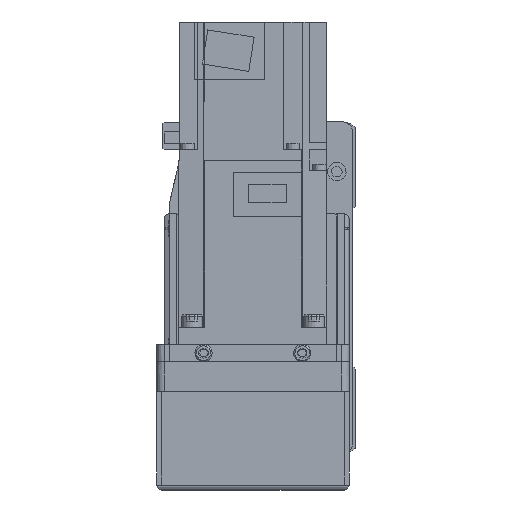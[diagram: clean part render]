
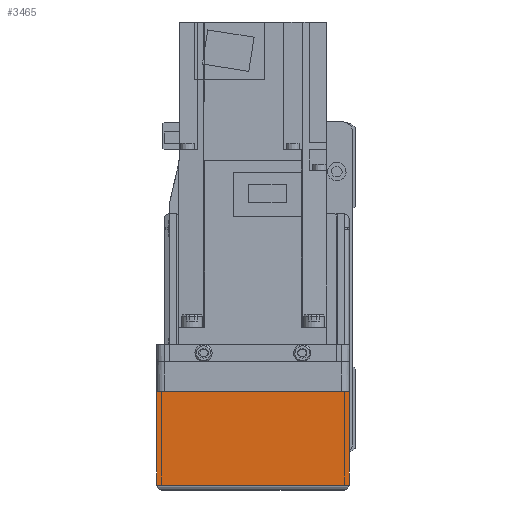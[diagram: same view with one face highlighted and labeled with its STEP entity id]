
A CAD part, left-side view. The second image highlights one B-rep face of the part: STEP entity #3465.
In plain terms, the highlighted planar face has unit normal (-1, 0, 0).
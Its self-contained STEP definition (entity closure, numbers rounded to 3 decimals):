
#3465 = ADVANCED_FACE( '', ( #7300 ), #7301, .F. );
#7300 = FACE_OUTER_BOUND( '', #11165, .T. );
#7301 = PLANE( '', #11166 );
#11165 = EDGE_LOOP( '', ( #20800, #20801, #20802, #20803 ) );
#11166 = AXIS2_PLACEMENT_3D( '', #20804, #20805, #20806 );
#20800 = ORIENTED_EDGE( '', *, *, #21717, .F. );
#20801 = ORIENTED_EDGE( '', *, *, #25084, .F. );
#20802 = ORIENTED_EDGE( '', *, *, #25014, .T. );
#20803 = ORIENTED_EDGE( '', *, *, #23240, .F. );
#20804 = CARTESIAN_POINT( '', ( -158., 36., 7. ) );
#20805 = DIRECTION( '', ( 1., 0., 0. ) );
#20806 = DIRECTION( '', ( 0., 0., -1. ) );
#21717 = EDGE_CURVE( '', #25857, #25859, #25860, .T. );
#23240 = EDGE_CURVE( '', #25859, #27245, #28380, .T. );
#25014 = EDGE_CURVE( '', #26348, #27245, #30742, .T. );
#25084 = EDGE_CURVE( '', #26348, #25857, #30816, .T. );
#25857 = VERTEX_POINT( '', #31949 );
#25859 = VERTEX_POINT( '', #31952 );
#25860 = LINE( '', #31953, #31954 );
#26348 = VERTEX_POINT( '', #32838 );
#27245 = VERTEX_POINT( '', #34298 );
#28380 = LINE( '', #36131, #36132 );
#30742 = LINE( '', #39952, #39953 );
#30816 = LINE( '', #40040, #40041 );
#31949 = CARTESIAN_POINT( '', ( -158., 39., -12.1 ) );
#31952 = CARTESIAN_POINT( '', ( -158., -39., -12.1 ) );
#31953 = CARTESIAN_POINT( '', ( -158., 50., -12.1 ) );
#31954 = VECTOR( '', #40664, 1000. );
#32838 = CARTESIAN_POINT( '', ( -158., 39., -50. ) );
#34298 = CARTESIAN_POINT( '', ( -158., -39., -50. ) );
#36131 = CARTESIAN_POINT( '', ( -158., -39., -12.1 ) );
#36132 = VECTOR( '', #42521, 1000. );
#39952 = CARTESIAN_POINT( '', ( -158., 40., -50. ) );
#39953 = VECTOR( '', #44450, 1000. );
#40040 = CARTESIAN_POINT( '', ( -158., 39., -50. ) );
#40041 = VECTOR( '', #44486, 1000. );
#40664 = DIRECTION( '', ( 0., -1., 0. ) );
#42521 = DIRECTION( '', ( 0., 0., -1. ) );
#44450 = DIRECTION( '', ( 0., -1., 0. ) );
#44486 = DIRECTION( '', ( 0., 0., 1. ) );
